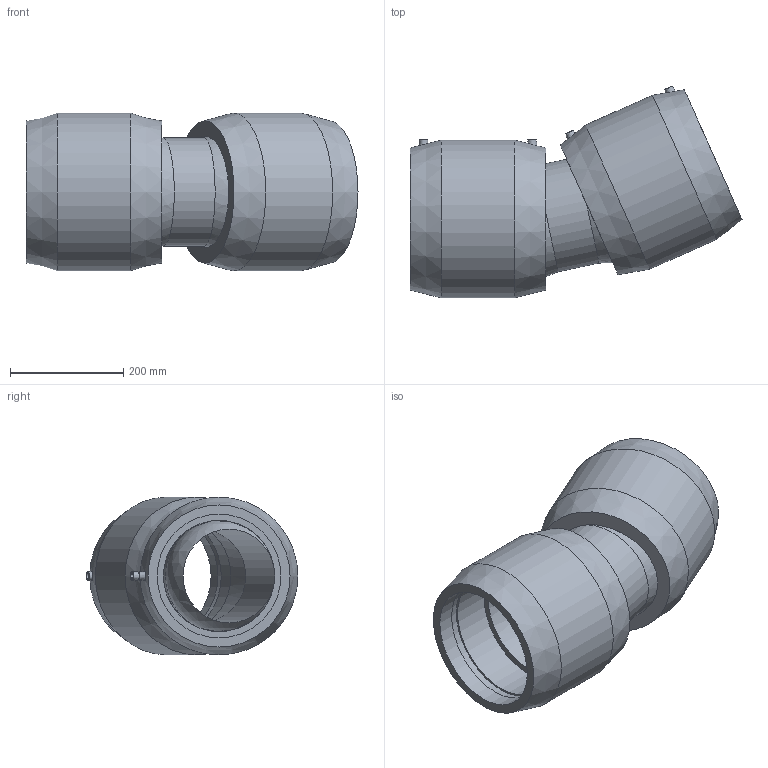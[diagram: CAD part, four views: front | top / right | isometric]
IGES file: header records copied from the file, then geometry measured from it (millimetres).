
Global section: file name: 5947B003080.ipt; native system: Autodesk Inventor 2019; preprocessor: unknown; author: KIM; date: 20210830.101216; units: inch
Bounding box: 586.84 x 374.48 x 278.89 mm (x, y, z)
Volume: 13484869.6 mm3; surface area: 1014300.6 mm2
Topology: 1 solids, 1 shells, 50 faces, 114 edges, 78 vertices
Faces by surface type: plane 20, revolution 13, cone 8, cylinder 7, sphere 2
Full cylindrical faces by diameter (mm): 4 x4, 191.504 x1, 278.892 x2
